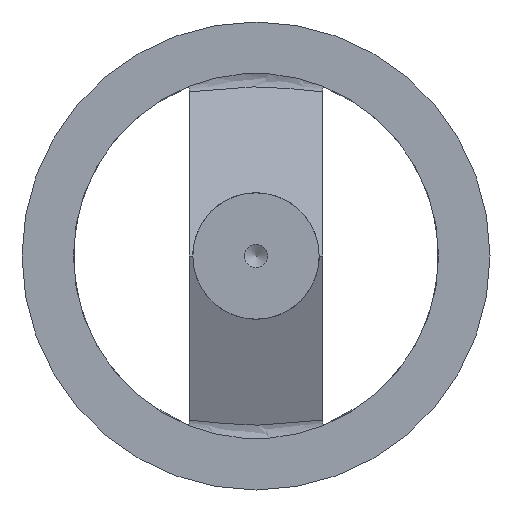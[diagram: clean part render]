
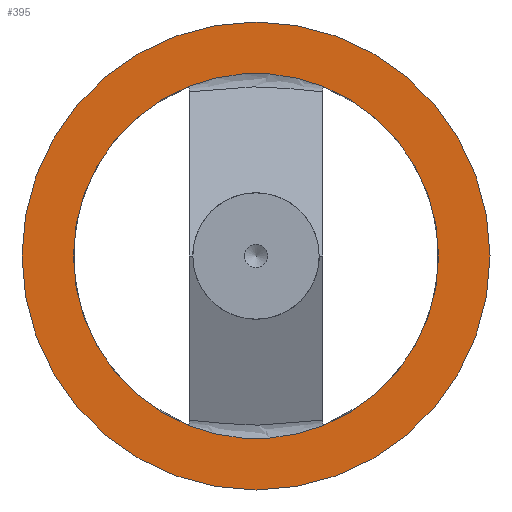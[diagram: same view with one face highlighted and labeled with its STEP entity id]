
A CAD part, front view. The second image highlights one B-rep face of the part: STEP entity #395.
In plain terms, the highlighted planar face has unit normal (0, -1, 0).
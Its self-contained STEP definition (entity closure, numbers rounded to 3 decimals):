
#58=PLANE('',#440);
#86=FACE_BOUND('',#154,.T.);
#120=FACE_OUTER_BOUND('',#153,.T.);
#153=EDGE_LOOP('',(#365));
#154=EDGE_LOOP('',(#366,#367,#368,#369));
#159=CIRCLE('',#406,39.);
#160=CIRCLE('',#409,39.);
#165=CIRCLE('',#421,39.);
#166=CIRCLE('',#422,39.);
#173=CIRCLE('',#439,50.);
#178=VERTEX_POINT('',#598);
#180=VERTEX_POINT('',#607);
#186=VERTEX_POINT('',#681);
#188=VERTEX_POINT('',#690);
#210=VERTEX_POINT('',#862);
#216=EDGE_CURVE('',#180,#178,#159,.T.);
#225=EDGE_CURVE('',#188,#186,#160,.T.);
#247=EDGE_CURVE('',#186,#180,#165,.T.);
#252=EDGE_CURVE('',#178,#188,#166,.T.);
#263=EDGE_CURVE('',#210,#210,#173,.T.);
#365=ORIENTED_EDGE('',*,*,#263,.F.);
#366=ORIENTED_EDGE('',*,*,#247,.T.);
#367=ORIENTED_EDGE('',*,*,#216,.T.);
#368=ORIENTED_EDGE('',*,*,#252,.T.);
#369=ORIENTED_EDGE('',*,*,#225,.T.);
#395=ADVANCED_FACE('',(#120,#86),#58,.T.);
#406=AXIS2_PLACEMENT_3D('',#608,#459,#460);
#409=AXIS2_PLACEMENT_3D('',#691,#469,#470);
#421=AXIS2_PLACEMENT_3D('',#767,#503,#504);
#422=AXIS2_PLACEMENT_3D('',#785,#507,#508);
#439=AXIS2_PLACEMENT_3D('',#863,#541,#542);
#440=AXIS2_PLACEMENT_3D('',#864,#543,#544);
#459=DIRECTION('center_axis',(0.,1.,0.));
#460=DIRECTION('ref_axis',(-1.,0.,0.));
#469=DIRECTION('center_axis',(0.,1.,0.));
#470=DIRECTION('ref_axis',(-1.,0.,0.));
#503=DIRECTION('center_axis',(0.,1.,0.));
#504=DIRECTION('ref_axis',(-1.,0.,0.));
#507=DIRECTION('center_axis',(0.,1.,0.));
#508=DIRECTION('ref_axis',(-1.,0.,0.));
#541=DIRECTION('center_axis',(0.,1.,0.));
#542=DIRECTION('ref_axis',(1.,0.,0.));
#543=DIRECTION('center_axis',(0.,-1.,0.));
#544=DIRECTION('ref_axis',(0.,0.,-1.));
#598=CARTESIAN_POINT('',(-14.25,0.,-36.303));
#607=CARTESIAN_POINT('',(14.25,0.,-36.303));
#608=CARTESIAN_POINT('Origin',(0.,0.,
0.));
#681=CARTESIAN_POINT('',(14.25,0.,36.303));
#690=CARTESIAN_POINT('',(-14.25,0.,36.303));
#691=CARTESIAN_POINT('Origin',(0.,0.,
0.));
#767=CARTESIAN_POINT('Origin',(0.,0.,
0.));
#785=CARTESIAN_POINT('Origin',(0.,0.,
0.));
#862=CARTESIAN_POINT('',(-50.,0.,0.));
#863=CARTESIAN_POINT('Origin',(0.,0.,
0.));
#864=CARTESIAN_POINT('Origin',(-50.,0.,0.));
